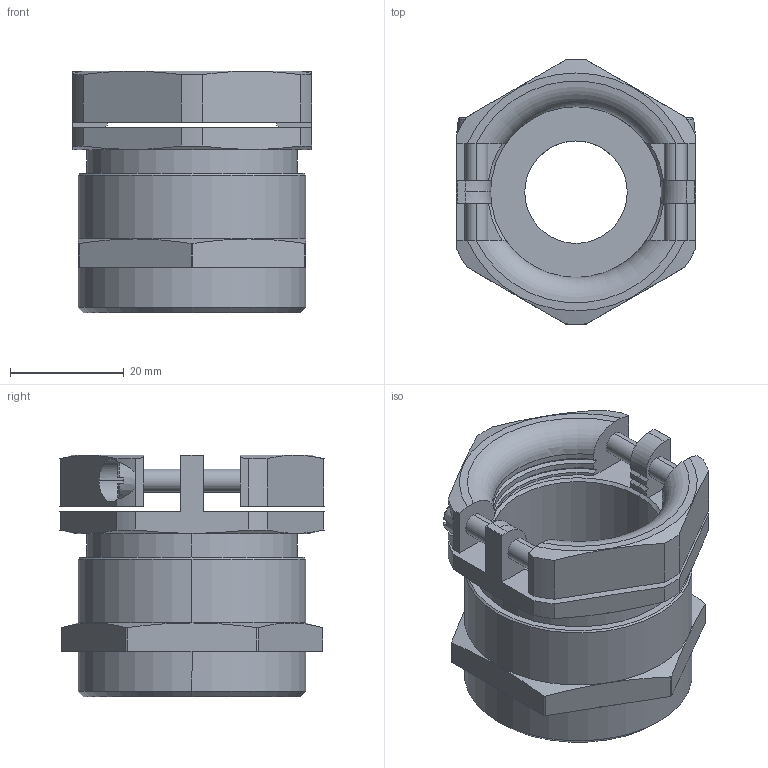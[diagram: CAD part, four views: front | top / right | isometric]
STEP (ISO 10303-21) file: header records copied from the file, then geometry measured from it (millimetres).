
FILE_DESCRIPTION (( 'STEP AP203' ), '1' );
FILE_NAME ('19.529M40.STEP', '2006-08-08T12:53:15', ( ' ' ), ( '' ), 'SwSTEP 2.0', 'SolidWorks 2005278', '' );
FILE_SCHEMA (( 'CONFIG_CONTROL_DESIGN' ));
Length unit declared in the file: millimetre
Products named in the file (1): 19.529M40
Bounding box: 42 x 46.48 x 42.5 mm (x, y, z)
Volume: 27425 mm3; surface area: 13596.8 mm2
Topology: 1 solids, 1 shells, 213 faces, 566 edges, 365 vertices
Faces by surface type: plane 98, cylinder 56, cone 48, torus 11
Entity records: 7117 total; most frequent: CARTESIAN_POINT 1778, ORIENTED_EDGE 1132, DIRECTION 1074, EDGE_CURVE 566, AXIS2_PLACEMENT_3D 400, VERTEX_POINT 365, VECTOR 274, LINE 274
